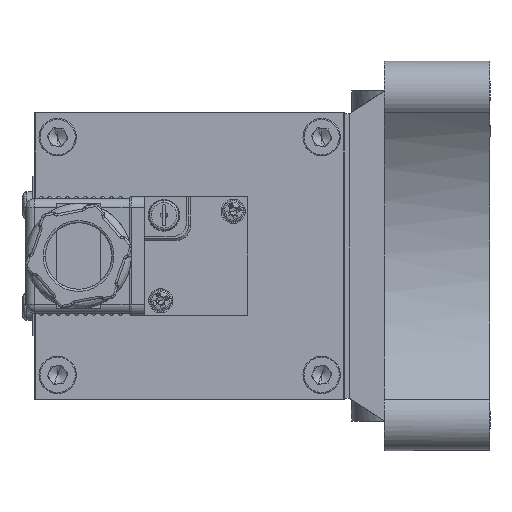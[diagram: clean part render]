
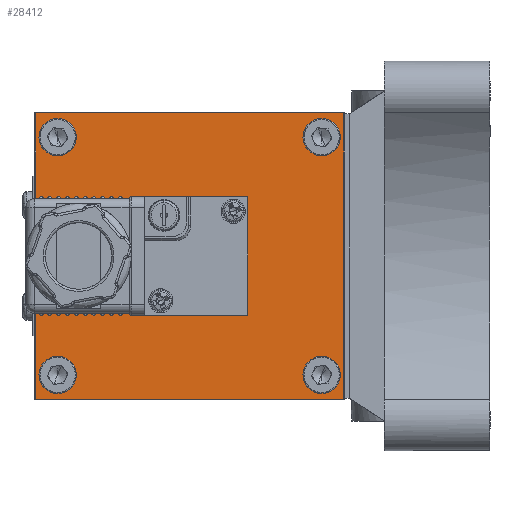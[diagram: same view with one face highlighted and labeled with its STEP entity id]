
A CAD part, left-side view. The second image highlights one B-rep face of the part: STEP entity #28412.
In plain terms, the highlighted planar face has unit normal (-1, 0, 0) as drawn and (0, 0, -1) by its records, which use the part's own axes.
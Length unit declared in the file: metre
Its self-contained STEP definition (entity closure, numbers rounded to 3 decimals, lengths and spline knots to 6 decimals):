
#40 = ORIENTED_EDGE ( 'NONE', *, *, #10719, .F. ) ;
#349 = ORIENTED_EDGE ( 'NONE', *, *, #19380, .F. ) ;
#462 = CARTESIAN_POINT ( 'NONE',  ( -0.0325, 0.07125, 0. ) ) ;
#1018 = CIRCLE ( 'NONE', #14701, 0.0025 ) ;
#1230 = EDGE_CURVE ( 'NONE', #2619, #12970, #5028, .T. ) ;
#1655 = CARTESIAN_POINT ( 'NONE',  ( 0., 0.00125, 0. ) ) ;
#1836 = AXIS2_PLACEMENT_3D ( 'NONE', #15265, #33804, #17874 ) ;
#2562 = DIRECTION ( 'NONE',  ( 0., 0., -1. ) ) ;
#2619 = VERTEX_POINT ( 'NONE', #30829 ) ;
#2651 = CARTESIAN_POINT ( 'NONE',  ( -0.0295, 0.00625, 0. ) ) ;
#2980 = CIRCLE ( 'NONE', #11638, 0.0025 ) ;
#3604 = VERTEX_POINT ( 'NONE', #23666 ) ;
#3731 = FACE_BOUND ( 'NONE', #25514, .T. ) ;
#4005 = EDGE_CURVE ( 'NONE', #11550, #28783, #26406, .T. ) ;
#4574 = FACE_BOUND ( 'NONE', #18596, .T. ) ;
#4947 = ORIENTED_EDGE ( 'NONE', *, *, #1230, .F. ) ;
#5028 = CIRCLE ( 'NONE', #26429, 0.0025 ) ;
#5451 = CARTESIAN_POINT ( 'NONE',  ( -0.027, 0.06625, 0. ) ) ;
#5642 = CARTESIAN_POINT ( 'NONE',  ( 0.0295, 0.00625, 0. ) ) ;
#5864 = CARTESIAN_POINT ( 'NONE',  ( -0.0325, 0.00125, 0. ) ) ;
#6121 = CARTESIAN_POINT ( 'NONE',  ( 0.027, 0.00625, 0. ) ) ;
#6231 = DIRECTION ( 'NONE',  ( 0., -1., 0. ) ) ;
#6788 = CIRCLE ( 'NONE', #8515, 0.0025 ) ;
#7093 = VERTEX_POINT ( 'NONE', #5864 ) ;
#7541 = DIRECTION ( 'NONE',  ( 0., 1., 0. ) ) ;
#7567 = EDGE_CURVE ( 'NONE', #28783, #14376, #30280, .T. ) ;
#7628 = AXIS2_PLACEMENT_3D ( 'NONE', #10155, #28660, #12814 ) ;
#8015 = CARTESIAN_POINT ( 'NONE',  ( 0.0245, 0.00625, 0. ) ) ;
#8097 = DIRECTION ( 'NONE',  ( 1., 0., 0. ) ) ;
#8182 = EDGE_LOOP ( 'NONE', ( #22143, #29508, #11355, #349 ) ) ;
#8314 = CARTESIAN_POINT ( 'NONE',  ( -0.0245, 0.00625, 0. ) ) ;
#8515 = AXIS2_PLACEMENT_3D ( 'NONE', #8592, #27083, #11259 ) ;
#8592 = CARTESIAN_POINT ( 'NONE',  ( -0.027, 0.00625, 0. ) ) ;
#8727 = CARTESIAN_POINT ( 'NONE',  ( 0.0325, 0.07125, 0. ) ) ;
#8760 = DIRECTION ( 'NONE',  ( 1., 0., 0. ) ) ;
#9101 = CARTESIAN_POINT ( 'NONE',  ( 0.0245, 0.06625, 0. ) ) ;
#9474 = ORIENTED_EDGE ( 'NONE', *, *, #28590, .F. ) ;
#9638 = CARTESIAN_POINT ( 'NONE',  ( 0.0325, 0.03625, 0. ) ) ;
#10155 = CARTESIAN_POINT ( 'NONE',  ( -0.027, 0.00625, 0. ) ) ;
#10248 = VERTEX_POINT ( 'NONE', #9101 ) ;
#10719 = EDGE_CURVE ( 'NONE', #12970, #2619, #28463, .T. ) ;
#10739 = EDGE_LOOP ( 'NONE', ( #32509, #30434 ) ) ;
#10773 = FACE_BOUND ( 'NONE', #24628, .T. ) ;
#11259 = DIRECTION ( 'NONE',  ( 1., 0., 0. ) ) ;
#11355 = ORIENTED_EDGE ( 'NONE', *, *, #4005, .F. ) ;
#11550 = VERTEX_POINT ( 'NONE', #32489 ) ;
#11602 = ORIENTED_EDGE ( 'NONE', *, *, #20331, .F. ) ;
#11638 = AXIS2_PLACEMENT_3D ( 'NONE', #27472, #11666, #30172 ) ;
#11666 = DIRECTION ( 'NONE',  ( 0., 0., -1. ) ) ;
#12113 = DIRECTION ( 'NONE',  ( 0., 0., 1. ) ) ;
#12814 = DIRECTION ( 'NONE',  ( 1., 0., 0. ) ) ;
#12970 = VERTEX_POINT ( 'NONE', #29027 ) ;
#13465 = CARTESIAN_POINT ( 'NONE',  ( -0.027, 0.06625, 0. ) ) ;
#14136 = EDGE_CURVE ( 'NONE', #3604, #10248, #28367, .T. ) ;
#14376 = VERTEX_POINT ( 'NONE', #462 ) ;
#14395 = VECTOR ( 'NONE', #28129, 1. ) ;
#14701 = AXIS2_PLACEMENT_3D ( 'NONE', #15792, #34316, #18388 ) ;
#14887 = EDGE_CURVE ( 'NONE', #10248, #3604, #1018, .T. ) ;
#15265 = CARTESIAN_POINT ( 'NONE',  ( 0.027, 0.06625, 0. ) ) ;
#15792 = CARTESIAN_POINT ( 'NONE',  ( 0.027, 0.06625, 0. ) ) ;
#16114 = DIRECTION ( 'NONE',  ( 1., 0., 0. ) ) ;
#16118 = DIRECTION ( 'NONE',  ( -1., 0., 0. ) ) ;
#16129 = EDGE_CURVE ( 'NONE', #21383, #33418, #6788, .T. ) ;
#16483 = VECTOR ( 'NONE', #6231, 1. ) ;
#16633 = VERTEX_POINT ( 'NONE', #8015 ) ;
#17275 = VERTEX_POINT ( 'NONE', #5642 ) ;
#17874 = DIRECTION ( 'NONE',  ( 1., 0., 0. ) ) ;
#18388 = DIRECTION ( 'NONE',  ( 1., 0., 0. ) ) ;
#18596 = EDGE_LOOP ( 'NONE', ( #40, #4947 ) ) ;
#19297 = VECTOR ( 'NONE', #7541, 1. ) ;
#19380 = EDGE_CURVE ( 'NONE', #7093, #11550, #21360, .T. ) ;
#20331 = EDGE_CURVE ( 'NONE', #17275, #16633, #32183, .T. ) ;
#21360 = LINE ( 'NONE', #1655, #14395 ) ;
#21381 = CARTESIAN_POINT ( 'NONE',  ( 0., 0.07125, 0. ) ) ;
#21383 = VERTEX_POINT ( 'NONE', #8314 ) ;
#22143 = ORIENTED_EDGE ( 'NONE', *, *, #33674, .F. ) ;
#23161 = VECTOR ( 'NONE', #16118, 1. ) ;
#23666 = CARTESIAN_POINT ( 'NONE',  ( 0.0295, 0.06625, 0. ) ) ;
#24158 = AXIS2_PLACEMENT_3D ( 'NONE', #27942, #12113, #30644 ) ;
#24564 = DIRECTION ( 'NONE',  ( 0., 0., -1. ) ) ;
#24628 = EDGE_LOOP ( 'NONE', ( #26011, #9474 ) ) ;
#24674 = CARTESIAN_POINT ( 'NONE',  ( -0.0325, 0.03625, 0. ) ) ;
#25514 = EDGE_LOOP ( 'NONE', ( #11602, #33247 ) ) ;
#25639 = FACE_BOUND ( 'NONE', #10739, .T. ) ;
#26011 = ORIENTED_EDGE ( 'NONE', *, *, #16129, .F. ) ;
#26406 = LINE ( 'NONE', #9638, #19297 ) ;
#26429 = AXIS2_PLACEMENT_3D ( 'NONE', #5451, #2562, #8097 ) ;
#27083 = DIRECTION ( 'NONE',  ( 0., 0., -1. ) ) ;
#27472 = CARTESIAN_POINT ( 'NONE',  ( 0.027, 0.00625, 0. ) ) ;
#27701 = CIRCLE ( 'NONE', #7628, 0.0025 ) ;
#27942 = CARTESIAN_POINT ( 'NONE',  ( -0.0325, 0.00125, 0. ) ) ;
#28129 = DIRECTION ( 'NONE',  ( 1., 0., 0. ) ) ;
#28335 = AXIS2_PLACEMENT_3D ( 'NONE', #6121, #24564, #8760 ) ;
#28367 = CIRCLE ( 'NONE', #1836, 0.0025 ) ;
#28412 = ADVANCED_FACE ( 'NONE', ( #4574, #25639, #10773, #3731, #31073 ), #30526, .F. ) ;
#28463 = CIRCLE ( 'NONE', #31599, 0.0025 ) ;
#28590 = EDGE_CURVE ( 'NONE', #33418, #21383, #27701, .T. ) ;
#28660 = DIRECTION ( 'NONE',  ( 0., 0., -1. ) ) ;
#28783 = VERTEX_POINT ( 'NONE', #8727 ) ;
#29027 = CARTESIAN_POINT ( 'NONE',  ( -0.0245, 0.06625, 0. ) ) ;
#29508 = ORIENTED_EDGE ( 'NONE', *, *, #7567, .F. ) ;
#30172 = DIRECTION ( 'NONE',  ( 1., 0., 0. ) ) ;
#30280 = LINE ( 'NONE', #21381, #23161 ) ;
#30434 = ORIENTED_EDGE ( 'NONE', *, *, #14887, .F. ) ;
#30526 = PLANE ( 'NONE',  #24158 ) ;
#30608 = LINE ( 'NONE', #24674, #16483 ) ;
#30644 = DIRECTION ( 'NONE',  ( 1., 0., 0. ) ) ;
#30829 = CARTESIAN_POINT ( 'NONE',  ( -0.0295, 0.06625, 0. ) ) ;
#30935 = EDGE_CURVE ( 'NONE', #16633, #17275, #2980, .T. ) ;
#31073 = FACE_OUTER_BOUND ( 'NONE', #8182, .T. ) ;
#31599 = AXIS2_PLACEMENT_3D ( 'NONE', #13465, #32022, #16114 ) ;
#32022 = DIRECTION ( 'NONE',  ( 0., 0., -1. ) ) ;
#32183 = CIRCLE ( 'NONE', #28335, 0.0025 ) ;
#32489 = CARTESIAN_POINT ( 'NONE',  ( 0.0325, 0.00125, 0. ) ) ;
#32509 = ORIENTED_EDGE ( 'NONE', *, *, #14136, .F. ) ;
#33247 = ORIENTED_EDGE ( 'NONE', *, *, #30935, .F. ) ;
#33418 = VERTEX_POINT ( 'NONE', #2651 ) ;
#33674 = EDGE_CURVE ( 'NONE', #14376, #7093, #30608, .T. ) ;
#33804 = DIRECTION ( 'NONE',  ( 0., 0., -1. ) ) ;
#34316 = DIRECTION ( 'NONE',  ( 0., 0., -1. ) ) ;
